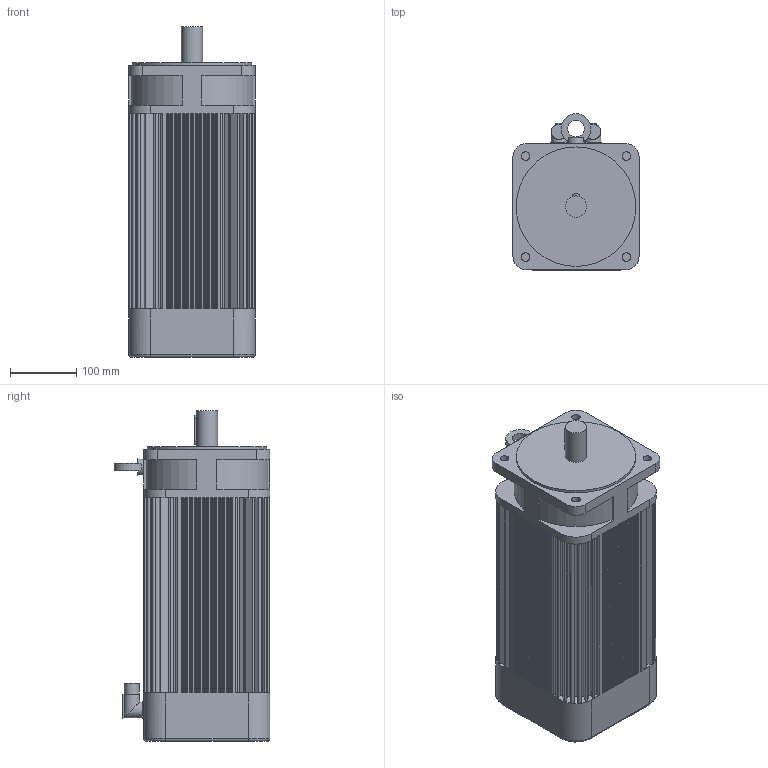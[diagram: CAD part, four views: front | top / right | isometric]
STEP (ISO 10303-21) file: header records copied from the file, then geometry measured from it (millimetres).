
FILE_DESCRIPTION(/* description */ (''),/* implementation_level */ '2;1');
FILE_NAME(/* name */ '\\Lafnas01\disegni\Archivi Lafert\3D\CAD 3D\MODELLI\Assiemi clienti\Serad\Modelli 3D Serad\B100I\Encoder\Enc With Brake\B1043Ixx6BRx2033.ipt.stp',/* time_stamp */ '2015-09-07T10:47:25+02:00',/* author */ ('Pastrello Ylenia'),/* organization */ (''),/* preprocessor_version */ 'ST-DEVELOPER v15.6',/* originating_system */ 'Autodesk Inventor 2015',/* authorisation */ '');
FILE_SCHEMA (('AUTOMOTIVE_DESIGN { 1 0 10303 214 3 1 1 }'));
Length unit declared in the file: millimetre
Products named in the file (1): B1043Ixx6BRx2033
Bounding box: 190 x 235 x 498 mm (x, y, z)
Volume: 14714418.5 mm3; surface area: 583987.9 mm2
Topology: 1 solids, 1 shells, 608 faces, 1497 edges, 980 vertices
Faces by surface type: plane 499, cylinder 105, torus 4
Full cylindrical faces by diameter (mm): 13 x4, 22.7 x2, 24 x2, 25 x2, 32 x1, 180 x1
Entity records: 17791 total; most frequent: CARTESIAN_POINT 3128, DIRECTION 2992, ORIENTED_EDGE 2962, EDGE_CURVE 1481, LINE 1180, VECTOR 1180, VERTEX_POINT 977, AXIS2_PLACEMENT_3D 906
